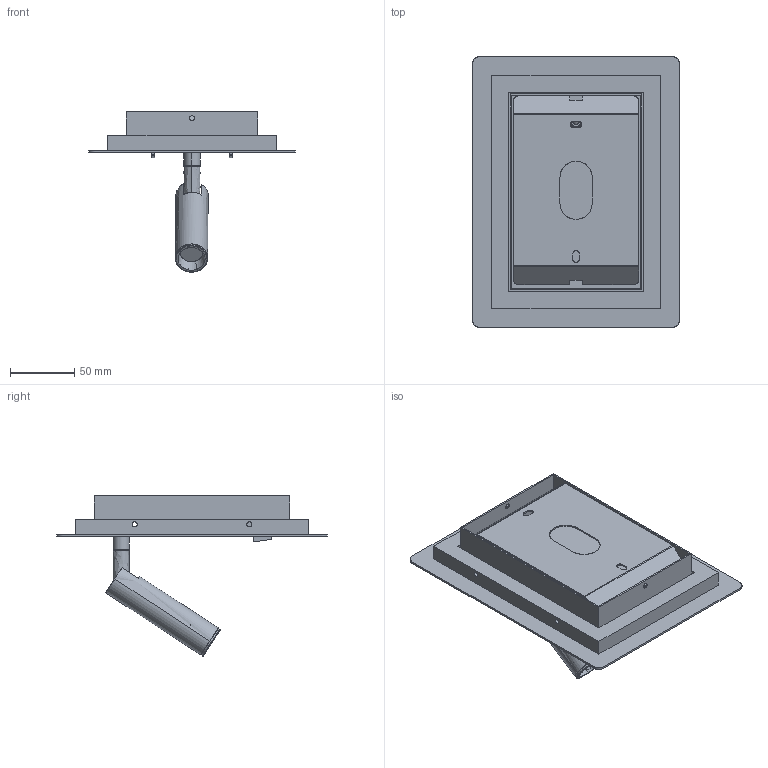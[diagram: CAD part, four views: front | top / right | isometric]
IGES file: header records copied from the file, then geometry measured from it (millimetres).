
Start section: SolidWorks IGES file using analytic representation for surfaces
Global section: file name: \\srvficheros\grupos\DISENYO\DESARROLLO DE PRODUCTO\_3D_WEB\MANAT-A3568002\MANAT-A3568002.IGS; native system: SolidWorks 2025; preprocessor: SolidWorks 2025; author: d.pons; date: 260114.123817; units: millimetre
Bounding box: 160 x 210 x 124.26 mm (x, y, z)
Surface area: 181741 mm2 (no closed solid volume)
Topology: 0 solids, 0 shells, 639 faces, 8752 edges, 8722 vertices
Faces by surface type: bspline 339, revolution 300
